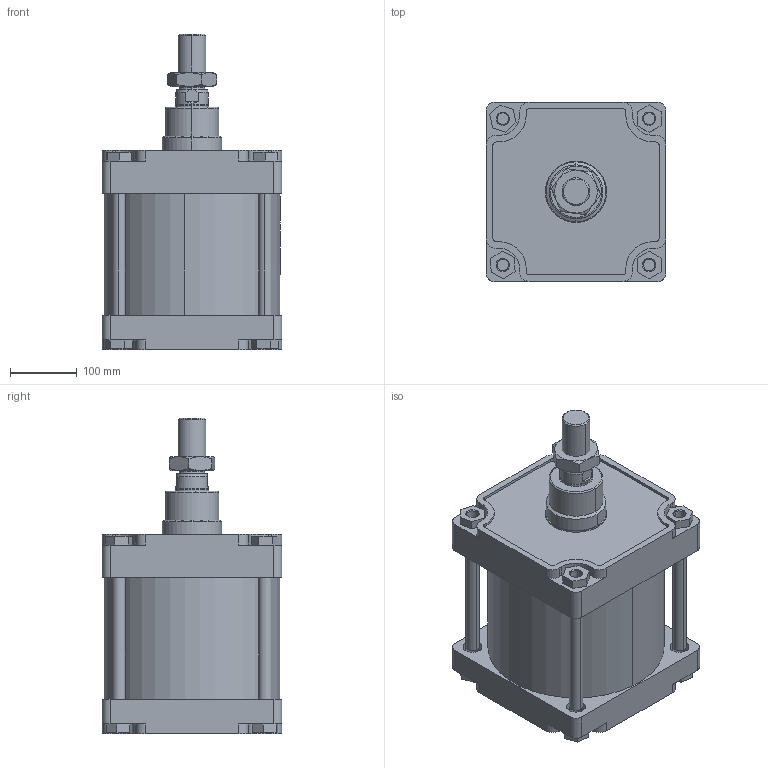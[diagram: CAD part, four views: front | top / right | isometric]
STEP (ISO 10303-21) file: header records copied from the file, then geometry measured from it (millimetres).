
FILE_DESCRIPTION (( 'STEP AP214' ), '1' );
FILE_NAME ('WQGB-250-0100 (3D).STEP', '2020-04-16T12:16:41', ( '' ), ( '' ), 'SwSTEP 2.0', 'SolidWorks 2016', '' );
FILE_SCHEMA (( 'AUTOMOTIVE_DESIGN' ));
Length unit declared in the file: millimetre
Products named in the file (4): Group1^WQGB-250-0100 (3D); Group2^WQGB-250-0100 (3D); WQGB-250-0100 (3D); Group3^WQGB-250-0100 (3D)
Assembly tree (3 placements, depth 2):
  WQGB-250-0100 (3D)
    Group1^WQGB-250-0100 (3D)
    Group2^WQGB-250-0100 (3D)
    Group3^WQGB-250-0100 (3D)
Bounding box: 270 x 270 x 475 mm (x, y, z)
Volume: 13951835 mm3; surface area: 966922.2 mm2
Topology: 3 solids, 3 shells, 580 faces, 1501 edges, 994 vertices
Faces by surface type: plane 314, cylinder 139, bspline 93, cone 34
Entity records: 25493 total; most frequent: CARTESIAN_POINT 9431, ORIENTED_EDGE 3002, DIRECTION 2555, EDGE_CURVE 1501, VERTEX_POINT 994, VECTOR 897, LINE 897, AXIS2_PLACEMENT_3D 829
